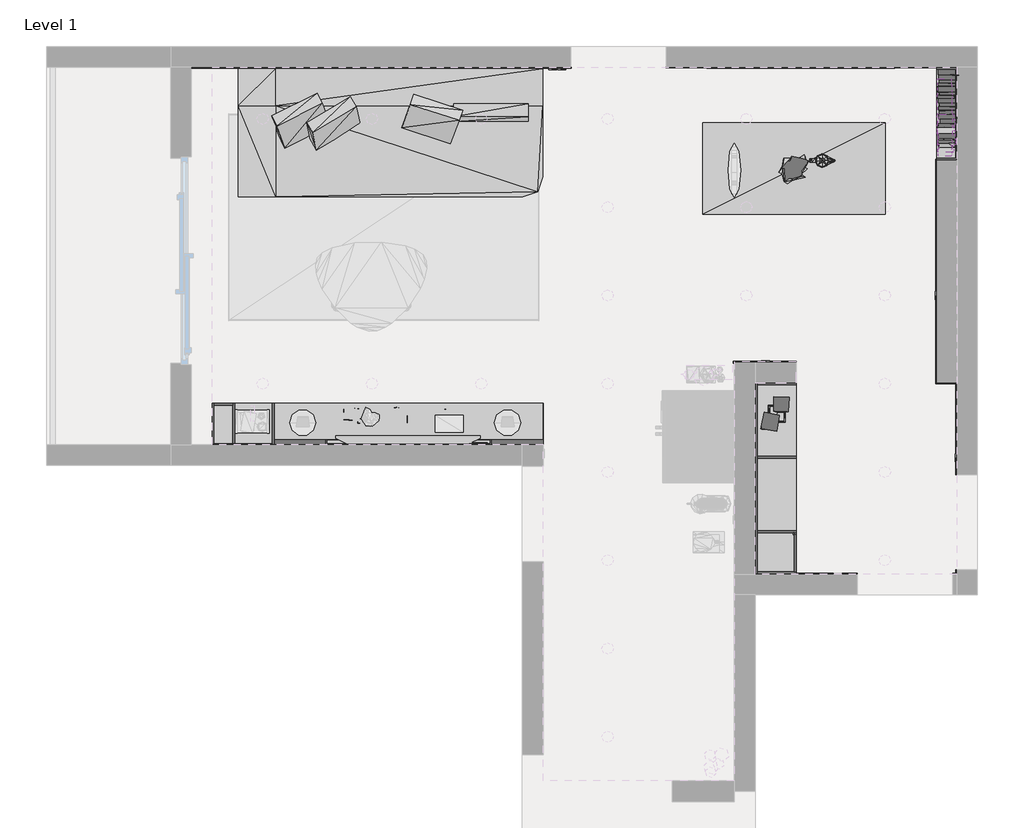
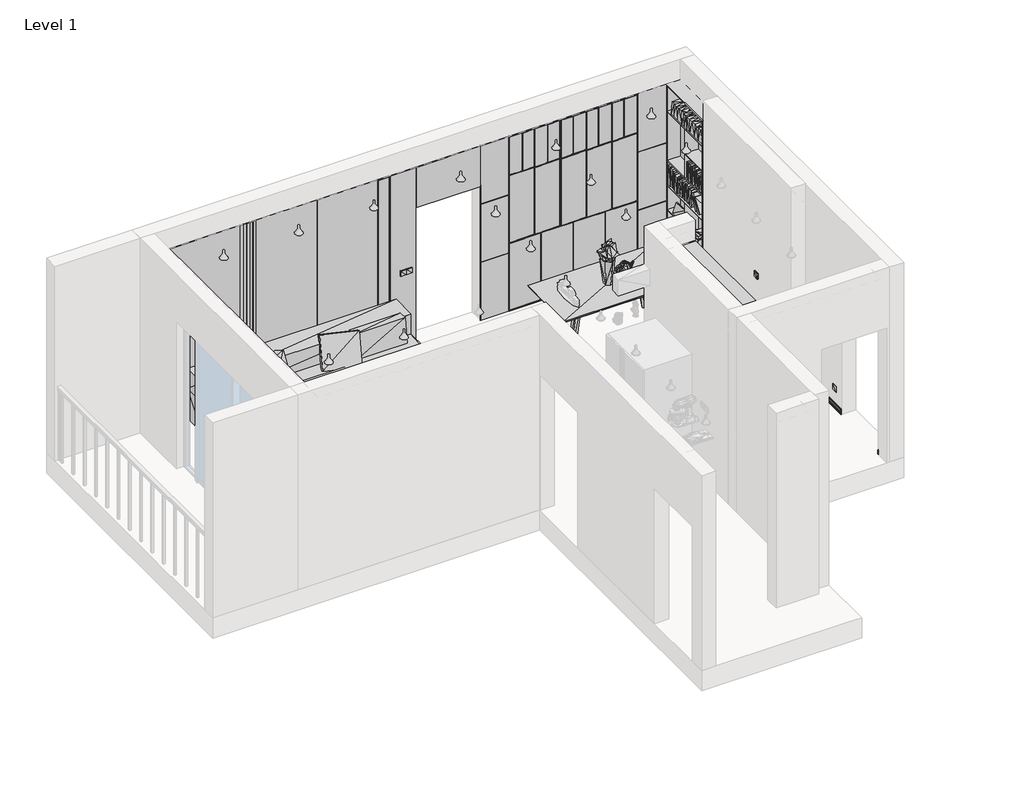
# One storey, part 3 of 3: 19 geographic elements, 2 proxies.
"""IFC4 building model written with IfcOpenShell, lengths in millimetres."""

from ifc_helpers import new_model, si_unit, frame, origin, place, context, project, spatial, polyline, circle_curve, ellipse_curve, transform, mapped, element, save
from ifc_brep_helpers import plane_surface, revolved_surface, advanced_brep
from components import living_room_living_room_9fcb9abf, living_room_living_room_f82f030e, geographic_element_3b733e86, geographic_element_d1b7c6a5, geographic_element_edd7479c, enscape_assetdefinition_books_02_enscape_assetdefinition_e079a25d, enscape_assetdefinition_books_03_enscape_assetdefinition_3bd942de, enscape_assetdefinition_books_11_enscape_assetdefinition_afcb8159, enscape_assetdefinition_dining_table_04_enscape_079112b5, enscape_assetdefinition_interior_plant_35_enscape_2c715937, enscape_assetdefinition_light_switch_02_enscape_37d4c2cf, enscape_assetdefinition_photo_frame_02_enscape_bd3f4fb1, enscape_assetdefinition_picture_frame_portrait_enscape_684294eb, enscape_assetdefinition_power_socket_enscape_assetdefinition_57b8c8f3, enscape_assetdefinition_sofa_04_enscape_assetdefinition_sofa_917a1df8

model = new_model("IFC4")

# Units and contexts
model_context = context("Model", 3, world=origin())
ifc_project = project(units=[si_unit("LENGTHUNIT", "METRE", prefix="MILLI")], contexts=[model_context])

# Site, building, storey
site = spatial("IfcSite", under=ifc_project)
building = spatial("IfcBuilding", under=site)
storey = spatial("IfcBuildingStorey", under=building, Name="Level 1", Elevation=0.0)

# Proxies
placement = place(None, origin())
element("IfcBuildingElementProxy", 1, Name="Cornice", ObjectType="Cornice", at=placement, inside=storey, context=model_context, shape_type="AdvancedBrep", body=[
    advanced_brep(
    [(1751.6989013, -51.4616585, 0.0), (1751.6989013, -51.4616585, 80.0), (1751.6989013, -2202.1687653, 80.0), (1751.6989013, -2202.1687653, 0.0), (1741.6989013, -41.4616585, 0.0), (1741.6989013, -2212.1687653, 0.0), (1741.6989013, -41.4616585, 9.3765106), (1741.6989013, -2212.1687653, 9.3765106), (1741.6989013, -41.4616585, 15.3628199), (1741.6989013, -2212.1687653, 15.3628199), (1741.6989013, -41.4616585, 26.8765106), (1741.6989013, -2212.1687653, 26.8765106), (1741.6989013, -41.4616585, 32.8628199), (1741.6989013, -2212.1687653, 32.8628199), (1741.6989013, -41.4616585, 45.0015106), (1741.6989013, -2212.1687653, 45.0015106), (1741.6989013, -41.4616585, 50.9878199), (1741.6989013, -2212.1687653, 50.9878199), (1741.6989013, -41.4616585, 61.339746), (1741.6989013, -2212.1687653, 61.339746), (1746.6989013, -46.4616585, 80.0), (1746.6989013, -2207.1687653, 80.0), (1946.6989013, -2202.1687653, 80.0), (1946.6989013, -2207.1687653, 80.0), (1946.6989013, -2212.1687653, 61.339746), (1946.6989013, -2212.1687653, 50.9878199), (1946.6989013, -2212.1687653, 45.0015106), (1946.6989013, -2212.1687653, 32.8628199), (1946.6989013, -2212.1687653, 26.8765106), (1946.6989013, -2212.1687653, 15.3628199), (1946.6989013, -2212.1687653, 9.3765106), (1946.6989013, -2212.1687653, 0.0), (1946.6989013, -2202.1687653, 0.0), (1751.6989013, -41.4616585, 0.0), (1751.6989013, -41.4616585, 9.3765106), (1751.6989013, -41.4616585, 15.3628199), (1751.6989013, -41.4616585, 26.8765106), (1751.6989013, -41.4616585, 32.8628199), (1751.6989013, -41.4616585, 45.0015106), (1751.6989013, -41.4616585, 50.9878199), (1751.6989013, -41.4616585, 61.339746), (1751.6989013, -46.4616585, 80.0)],
    [
        (0, 1),
        (1, 2),
        (2, 3),
        (3, 0),
        (4, 0),
        (3, 5),
        (5, 4),
        (6, 4),
        (5, 7),
        (7, 6),
        (8, 6, ellipse_curve(frame((1741.6989013, -41.4616585, 12.3696652), z_axis=(0.707106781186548, 0.7071067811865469, 0.0), x_axis=(0.7071067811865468, -0.7071067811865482, 0.0)), 4.2329599, 2.9931546)),
        (7, 9, ellipse_curve(frame((1741.6989013, -2212.1687653, 12.3696652), z_axis=(0.707106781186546, -0.707106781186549, 0.0), x_axis=(-0.707106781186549, -0.707106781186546, 0.0)), 4.2329599, 2.9931546)),
        (9, 8),
        (10, 8),
        (9, 11),
        (11, 10),
        (12, 10, ellipse_curve(frame((1741.6989013, -41.4616585, 29.8696652), z_axis=(0.707106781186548, 0.7071067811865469, 0.0), x_axis=(0.7071067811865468, -0.7071067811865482, 0.0)), 4.2329599, 2.9931546)),
        (11, 13, ellipse_curve(frame((1741.6989013, -2212.1687653, 29.8696652), z_axis=(0.707106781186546, -0.707106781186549, 0.0), x_axis=(-0.707106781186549, -0.707106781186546, 0.0)), 4.2329599, 2.9931546)),
        (13, 12),
        (14, 12),
        (13, 15),
        (15, 14),
        (16, 14, ellipse_curve(frame((1741.6989013, -41.4616585, 47.9946652), z_axis=(0.707106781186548, 0.7071067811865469, 0.0), x_axis=(0.7071067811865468, -0.7071067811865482, 0.0)), 4.2329599, 2.9931546)),
        (15, 17, ellipse_curve(frame((1741.6989013, -2212.1687653, 47.9946652), z_axis=(0.707106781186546, -0.707106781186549, 0.0), x_axis=(-0.707106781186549, -0.707106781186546, 0.0)), 4.2329599, 2.9931546)),
        (17, 16),
        (18, 16),
        (17, 19),
        (19, 18),
        (20, 18),
        (19, 21),
        (21, 20),
        (1, 20),
        (21, 2),
        (22, 23),
        (23, 24),
        (24, 25),
        (25, 26, circle_curve(frame((1946.6989013, -2212.1687653, 47.9946652), z_axis=(-1.0, 0.0, 0.0), x_axis=(0.0, -1.0, 0.0)), 2.9931546)),
        (26, 27),
        (27, 28, circle_curve(frame((1946.6989013, -2212.1687653, 29.8696652), z_axis=(-1.0, 0.0, 0.0), x_axis=(0.0, -1.0, 0.0)), 2.9931546)),
        (28, 29),
        (29, 30, circle_curve(frame((1946.6989013, -2212.1687653, 12.3696652), z_axis=(-1.0, 0.0, 0.0), x_axis=(0.0, -1.0, 0.0)), 2.9931546)),
        (30, 31),
        (31, 32),
        (32, 22),
        (2, 22),
        (32, 3),
        (31, 5),
        (30, 7),
        (29, 9),
        (28, 11),
        (27, 13),
        (26, 15),
        (25, 17),
        (24, 19),
        (23, 21),
        (0, 33),
        (33, 34),
        (34, 35, circle_curve(frame((1751.6989013, -41.4616585, 12.3696652), z_axis=(-1.0, 0.0, 0.0), x_axis=(0.0, 1.0, 0.0)), 2.9931546)),
        (35, 36),
        (36, 37, circle_curve(frame((1751.6989013, -41.4616585, 29.8696652), z_axis=(-1.0, 0.0, 0.0), x_axis=(0.0, 1.0, 0.0)), 2.9931546)),
        (37, 38),
        (38, 39, circle_curve(frame((1751.6989013, -41.4616585, 47.9946652), z_axis=(-1.0, 0.0, 0.0), x_axis=(0.0, 1.0, 0.0)), 2.9931546)),
        (39, 40),
        (40, 41),
        (41, 1),
        (4, 33),
        (6, 34),
        (8, 35),
        (10, 36),
        (12, 37),
        (14, 38),
        (16, 39),
        (18, 40),
        (20, 41),
    ],
    [
        plane_surface(frame((1751.6989013, -51.4616585, 80.0), z_axis=(1.0, 0.0, 0.0), x_axis=(0.0, -1.0, 0.0))),
        plane_surface(frame((1751.6989013, -51.4616585, 0.0), z_axis=(0.0, 0.0, -1.0), x_axis=(0.0, -1.0, 0.0))),
        plane_surface(frame((1741.6989013, -41.4616585, 0.0), z_axis=(-1.0, 0.0, 0.0), x_axis=(0.0, -1.0, 0.0))),
        revolved_surface(polyline([(1738.7057467, -2215.1619199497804, 12.3696652), (1738.7057467, -38.468503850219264, 12.3696652)]), (1741.6989013, -51.4616585, 12.3696652), (0.0, -1.0, 0.0)),
        plane_surface(frame((1741.6989013, -41.4616585, 15.3628199), z_axis=(-1.0, 0.0, 0.0), x_axis=(0.0, -1.0, 0.0))),
        revolved_surface(polyline([(1738.7057467, -2215.1619199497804, 29.8696652), (1738.7057467, -38.468503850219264, 29.8696652)]), (1741.6989013, -51.4616585, 29.8696652), (0.0, -1.0, 0.0)),
        plane_surface(frame((1741.6989013, -41.4616585, 32.8628199), z_axis=(-1.0, 0.0, 0.0), x_axis=(0.0, -1.0, 0.0))),
        revolved_surface(polyline([(1738.7057467, -2215.1619199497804, 47.9946652), (1738.7057467, -38.468503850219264, 47.9946652)]), (1741.6989013, -51.4616585, 47.9946652), (0.0, -1.0, 0.0)),
        plane_surface(frame((1741.6989013, -41.4616585, 50.9878199), z_axis=(-1.0, 0.0, 0.0), x_axis=(0.0, -1.0, 0.0))),
        plane_surface(frame((1741.6989013, -41.4616585, 61.339746), z_axis=(-0.9659258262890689, 0.0, 0.2588190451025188), x_axis=(0.0, -1.0, 0.0))),
        plane_surface(frame((1746.6989013, -46.4616585, 80.0), z_axis=(0.0, 0.0, 1.0), x_axis=(0.0, -1.0, 0.0))),
        plane_surface(frame((1946.6989013, -51.4616585, 0.0), z_axis=(1.0, 0.0, 0.0), x_axis=(0.0, -1.0, 0.0))),
        plane_surface(frame((1751.6989013, -2202.1687653, 80.0), z_axis=(0.0, 1.0, 0.0), x_axis=(1.0, 0.0, 0.0))),
        plane_surface(frame((1751.6989013, -2202.1687653, 0.0), z_axis=(0.0, 0.0, -1.0), x_axis=(1.0, 0.0, 0.0))),
        plane_surface(frame((1741.6989013, -2212.1687653, 0.0), z_axis=(0.0, -1.0, 0.0), x_axis=(1.0, 0.0, 0.0))),
        revolved_surface(polyline([(1946.6989013, -2215.1619198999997, 12.3696652), (1738.7057466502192, -2215.1619198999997, 12.3696652)]), (1751.6989013, -2212.1687653, 12.3696652), (1.0, 0.0, 0.0)),
        plane_surface(frame((1741.6989013, -2212.1687653, 15.3628199), z_axis=(0.0, -1.0, 0.0), x_axis=(1.0, 0.0, 0.0))),
        revolved_surface(polyline([(1946.6989013, -2215.1619198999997, 29.8696652), (1738.7057466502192, -2215.1619198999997, 29.8696652)]), (1751.6989013, -2212.1687653, 29.8696652), (1.0, 0.0, 0.0)),
        plane_surface(frame((1741.6989013, -2212.1687653, 32.8628199), z_axis=(0.0, -1.0, 0.0), x_axis=(1.0, 0.0, 0.0))),
        revolved_surface(polyline([(1946.6989013, -2215.1619198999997, 47.9946652), (1738.7057466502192, -2215.1619198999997, 47.9946652)]), (1751.6989013, -2212.1687653, 47.9946652), (1.0, 0.0, 0.0)),
        plane_surface(frame((1741.6989013, -2212.1687653, 50.9878199), z_axis=(0.0, -1.0, 0.0), x_axis=(1.0, 0.0, 0.0))),
        plane_surface(frame((1741.6989013, -2212.1687653, 61.339746), z_axis=(0.0, -0.9659258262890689, 0.2588190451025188), x_axis=(1.0, 0.0, 0.0))),
        plane_surface(frame((1746.6989013, -2207.1687653, 80.0), z_axis=(0.0, 0.0, 1.0), x_axis=(1.0, 0.0, 0.0))),
        plane_surface(frame((1751.6989013, -51.4616585, 0.0), z_axis=(1.0, 0.0, 0.0), x_axis=(0.0, -1.0, 0.0))),
        plane_surface(frame((1751.6989013, -51.4616585, 0.0), z_axis=(0.0, 0.0, -1.0), x_axis=(-1.0, 0.0, 0.0))),
        plane_surface(frame((1751.6989013, -41.4616585, 0.0), z_axis=(0.0, 1.0, 0.0), x_axis=(-1.0, 0.0, 0.0))),
        revolved_surface(polyline([(1738.7057466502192, -38.4685039, 12.3696652), (1751.6989013, -38.4685039, 12.3696652)]), (1751.6989013, -41.4616585, 12.3696652), (-1.0, 0.0, 0.0)),
        plane_surface(frame((1751.6989013, -41.4616585, 15.3628199), z_axis=(0.0, 1.0, 0.0), x_axis=(-1.0, 0.0, 0.0))),
        revolved_surface(polyline([(1738.7057466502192, -38.4685039, 29.8696652), (1751.6989013, -38.4685039, 29.8696652)]), (1751.6989013, -41.4616585, 29.8696652), (-1.0, 0.0, 0.0)),
        plane_surface(frame((1751.6989013, -41.4616585, 32.8628199), z_axis=(0.0, 1.0, 0.0), x_axis=(-1.0, 0.0, 0.0))),
        revolved_surface(polyline([(1738.7057466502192, -38.4685039, 47.9946652), (1751.6989013, -38.4685039, 47.9946652)]), (1751.6989013, -41.4616585, 47.9946652), (-1.0, 0.0, 0.0)),
        plane_surface(frame((1751.6989013, -41.4616585, 50.9878199), z_axis=(0.0, 1.0, 0.0), x_axis=(-1.0, 0.0, 0.0))),
        plane_surface(frame((1751.6989013, -41.4616585, 61.339746), z_axis=(0.0, 0.9659258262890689, 0.25881904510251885), x_axis=(-1.0, 0.0, 0.0))),
        plane_surface(frame((1751.6989013, -46.4616585, 80.0), z_axis=(0.0, 0.0, 1.0), x_axis=(-1.0, 0.0, 0.0))),
    ],
    [
        (0, [[1, 2, 3, 4]]),
        (1, [[5, -4, 6, 7]]),
        (2, [[8, -7, 9, 10]]),
        (3, [[11, -10, 12, 13]]),
        (4, [[14, -13, 15, 16]]),
        (5, [[17, -16, 18, 19]]),
        (6, [[20, -19, 21, 22]]),
        (7, [[23, -22, 24, 25]]),
        (8, [[26, -25, 27, 28]]),
        (9, [[29, -28, 30, 31]]),
        (10, [[32, -31, 33, -2]]),
        (11, [[34, 35, 36, 37, 38, 39, 40, 41, 42, 43, 44]]),
        (12, [[-3, 45, -44, 46]]),
        (13, [[-6, -46, -43, 47]]),
        (14, [[-9, -47, -42, 48]]),
        (15, [[-12, -48, -41, 49]]),
        (16, [[-15, -49, -40, 50]]),
        (17, [[-18, -50, -39, 51]]),
        (18, [[-21, -51, -38, 52]]),
        (19, [[-24, -52, -37, 53]]),
        (20, [[-27, -53, -36, 54]]),
        (21, [[-30, -54, -35, 55]]),
        (22, [[-33, -55, -34, -45]]),
        (23, [[56, 57, 58, 59, 60, 61, 62, 63, 64, 65, -1]]),
        (24, [[-56, -5, 66]]),
        (25, [[-57, -66, -8, 67]]),
        (26, [[-58, -67, -11, 68]]),
        (27, [[-59, -68, -14, 69]]),
        (28, [[-60, -69, -17, 70]]),
        (29, [[-61, -70, -20, 71]]),
        (30, [[-62, -71, -23, 72]]),
        (31, [[-63, -72, -26, 73]]),
        (32, [[-64, -73, -29, 74]]),
        (33, [[-65, -74, -32]]),
    ],
),
    advanced_brep(
    [(1946.6989013, -4012.1687653, 80.0), (1946.6989013, -4012.1687653, 0.0), (1936.6989013, -4012.1687653, 0.0), (1936.6989013, -4012.1687653, 9.3765106), (1936.6989013, -4012.1687653, 15.3628199), (1936.6989013, -4012.1687653, 26.8765106), (1936.6989013, -4012.1687653, 32.8628199), (1936.6989013, -4012.1687653, 45.0015106), (1936.6989013, -4012.1687653, 50.9878199), (1936.6989013, -4012.1687653, 61.339746), (1941.6989013, -4012.1687653, 80.0), (1946.6989013, -4052.1687653, 80.0), (1941.6989013, -4047.1687653, 80.0), (1936.6989013, -4042.1687653, 61.339746), (1936.6989013, -4042.1687653, 50.9878199), (1936.6989013, -4042.1687653, 45.0015106), (1936.6989013, -4042.1687653, 32.8628199), (1936.6989013, -4042.1687653, 26.8765106), (1936.6989013, -4042.1687653, 15.3628199), (1936.6989013, -4042.1687653, 9.3765106), (1936.6989013, -4042.1687653, 0.0), (1946.6989013, -4052.1687653, 0.0)],
    [
        (0, 1),
        (1, 2),
        (2, 3),
        (3, 4, circle_curve(frame((1936.6989013, -4012.1687653, 12.3696652), z_axis=(0.0, -1.0, 0.0), x_axis=(-1.0, 0.0, 0.0)), 2.9931546)),
        (4, 5),
        (5, 6, circle_curve(frame((1936.6989013, -4012.1687653, 29.8696652), z_axis=(0.0, -1.0, 0.0), x_axis=(-1.0, 0.0, 0.0)), 2.9931546)),
        (6, 7),
        (7, 8, circle_curve(frame((1936.6989013, -4012.1687653, 47.9946652), z_axis=(0.0, -1.0, 0.0), x_axis=(-1.0, 0.0, 0.0)), 2.9931546)),
        (8, 9),
        (9, 10),
        (10, 0),
        (11, 12),
        (12, 13),
        (13, 14),
        (14, 15, ellipse_curve(frame((1936.6989013, -4042.1687653, 47.9946652), z_axis=(0.7071067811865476, 0.7071067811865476, 0.0), x_axis=(0.7071067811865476, -0.7071067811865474, 0.0)), 4.2329599, 2.9931546)),
        (15, 16),
        (16, 17, ellipse_curve(frame((1936.6989013, -4042.1687653, 29.8696652), z_axis=(0.7071067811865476, 0.7071067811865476, 0.0), x_axis=(0.7071067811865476, -0.7071067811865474, 0.0)), 4.2329599, 2.9931546)),
        (17, 18),
        (18, 19, ellipse_curve(frame((1936.6989013, -4042.1687653, 12.3696652), z_axis=(0.7071067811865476, 0.7071067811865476, 0.0), x_axis=(0.7071067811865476, -0.7071067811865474, 0.0)), 4.2329599, 2.9931546)),
        (19, 20),
        (20, 21),
        (21, 11),
        (0, 11),
        (21, 1),
        (20, 2),
        (19, 3),
        (18, 4),
        (17, 5),
        (16, 6),
        (15, 7),
        (14, 8),
        (13, 9),
        (12, 10),
    ],
    [
        plane_surface(frame((1866.5428036, -4012.1687653, 0.0), z_axis=(0.0, 1.0, 0.0), x_axis=(0.0, 0.0, -1.0))),
        plane_surface(frame((1946.6989013, -4052.1687653, 304.8), z_axis=(-0.7071067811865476, -0.7071067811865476, 0.0), x_axis=(-0.7071067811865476, 0.7071067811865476, 0.0))),
        plane_surface(frame((1946.6989013, -4012.1687653, 80.0), z_axis=(1.0, 0.0, 0.0), x_axis=(0.0, -1.0, 0.0))),
        plane_surface(frame((1946.6989013, -4012.1687653, 0.0), z_axis=(0.0, 0.0, -1.0), x_axis=(0.0, -1.0, 0.0))),
        plane_surface(frame((1936.6989013, -4012.1687653, 0.0), z_axis=(-1.0, 0.0, 0.0), x_axis=(0.0, -1.0, 0.0))),
        revolved_surface(polyline([(1933.7057467, -4045.1619199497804, 12.3696652), (1933.7057467, -4012.1687653, 12.3696652)]), (1936.6989013, -4012.1687653, 12.3696652), (0.0, -1.0, 0.0)),
        plane_surface(frame((1936.6989013, -4012.1687653, 15.3628199), z_axis=(-1.0, 0.0, 0.0), x_axis=(0.0, -1.0, 0.0))),
        revolved_surface(polyline([(1933.7057467, -4045.1619199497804, 29.8696652), (1933.7057467, -4012.1687653, 29.8696652)]), (1936.6989013, -4012.1687653, 29.8696652), (0.0, -1.0, 0.0)),
        plane_surface(frame((1936.6989013, -4012.1687653, 32.8628199), z_axis=(-1.0, 0.0, 0.0), x_axis=(0.0, -1.0, 0.0))),
        revolved_surface(polyline([(1933.7057467, -4045.1619199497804, 47.9946652), (1933.7057467, -4012.1687653, 47.9946652)]), (1936.6989013, -4012.1687653, 47.9946652), (0.0, -1.0, 0.0)),
        plane_surface(frame((1936.6989013, -4012.1687653, 50.9878199), z_axis=(-1.0, 0.0, 0.0), x_axis=(0.0, -1.0, 0.0))),
        plane_surface(frame((1936.6989013, -4012.1687653, 61.339746), z_axis=(-0.9659258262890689, 0.0, 0.2588190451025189), x_axis=(0.0, -1.0, 0.0))),
        plane_surface(frame((1941.6989013, -4012.1687653, 80.0), z_axis=(0.0, 0.0, 1.0), x_axis=(0.0, -1.0, 0.0))),
    ],
    [
        (0, [[1, 2, 3, 4, 5, 6, 7, 8, 9, 10, 11]]),
        (1, [[12, 13, 14, 15, 16, 17, 18, 19, 20, 21, 22]]),
        (2, [[-1, 23, -22, 24]]),
        (3, [[-2, -24, -21, 25]]),
        (4, [[-3, -25, -20, 26]]),
        (5, [[-4, -26, -19, 27]]),
        (6, [[-5, -27, -18, 28]]),
        (7, [[-6, -28, -17, 29]]),
        (8, [[-7, -29, -16, 30]]),
        (9, [[-8, -30, -15, 31]]),
        (10, [[-9, -31, -14, 32]]),
        (11, [[-10, -32, -13, 33]]),
        (12, [[-11, -33, -12, -23]]),
    ],
),
    advanced_brep(
    [(1946.6989013, -2158.0522928, 80.0), (1946.6989013, -2158.0522928, 0.0), (1936.6989013, -2158.0522928, 0.0), (1936.6989013, -2158.0522928, 9.3765106), (1936.6989013, -2158.0522928, 15.3628199), (1936.6989013, -2158.0522928, 26.8765106), (1936.6989013, -2158.0522928, 32.8628199), (1936.6989013, -2158.0522928, 45.0015106), (1936.6989013, -2158.0522928, 50.9878199), (1936.6989013, -2158.0522928, 61.339746), (1941.6989013, -2158.0522928, 80.0), (1946.6989013, -3090.1687653, 80.0), (1941.6989013, -3090.1687653, 80.0), (1936.6989013, -3090.1687653, 61.339746), (1936.6989013, -3090.1687653, 50.9878199), (1936.6989013, -3090.1687653, 45.0015106), (1936.6989013, -3090.1687653, 32.8628199), (1936.6989013, -3090.1687653, 26.8765106), (1936.6989013, -3090.1687653, 15.3628199), (1936.6989013, -3090.1687653, 9.3765106), (1936.6989013, -3090.1687653, 0.0), (1946.6989013, -3090.1687653, 0.0)],
    [
        (0, 1),
        (1, 2),
        (2, 3),
        (3, 4, circle_curve(frame((1936.6989013, -2158.0522928, 12.3696652), z_axis=(0.0, -1.0, 0.0), x_axis=(-1.0, 0.0, 0.0)), 2.9931546)),
        (4, 5),
        (5, 6, circle_curve(frame((1936.6989013, -2158.0522928, 29.8696652), z_axis=(0.0, -1.0, 0.0), x_axis=(-1.0, 0.0, 0.0)), 2.9931546)),
        (6, 7),
        (7, 8, circle_curve(frame((1936.6989013, -2158.0522928, 47.9946652), z_axis=(0.0, -1.0, 0.0), x_axis=(-1.0, 0.0, 0.0)), 2.9931546)),
        (8, 9),
        (9, 10),
        (10, 0),
        (11, 12),
        (12, 13),
        (13, 14),
        (14, 15, circle_curve(frame((1936.6989013, -3090.1687653, 47.9946652), z_axis=(0.0, 1.0, 0.0), x_axis=(-1.0, 0.0, 0.0)), 2.9931546)),
        (15, 16),
        (16, 17, circle_curve(frame((1936.6989013, -3090.1687653, 29.8696652), z_axis=(0.0, 1.0, 0.0), x_axis=(-1.0, 0.0, 0.0)), 2.9931546)),
        (17, 18),
        (18, 19, circle_curve(frame((1936.6989013, -3090.1687653, 12.3696652), z_axis=(0.0, 1.0, 0.0), x_axis=(-1.0, 0.0, 0.0)), 2.9931546)),
        (19, 20),
        (20, 21),
        (21, 11),
        (0, 11),
        (21, 1),
        (20, 2),
        (19, 3),
        (18, 4),
        (17, 5),
        (16, 6),
        (15, 7),
        (14, 8),
        (13, 9),
        (12, 10),
    ],
    [
        plane_surface(frame((1866.5428036, -2158.0522928, 0.0), z_axis=(0.0, 1.0, 0.0), x_axis=(0.0, 0.0, -1.0))),
        plane_surface(frame((1866.5428036, -3090.1687653, 0.0), z_axis=(0.0, -1.0, 0.0), x_axis=(0.0, 0.0, -1.0))),
        plane_surface(frame((1946.6989013, -2158.0522928, 80.0), z_axis=(1.0, 0.0, 0.0), x_axis=(0.0, -1.0, 0.0))),
        plane_surface(frame((1946.6989013, -2158.0522928, 0.0), z_axis=(0.0, 0.0, -1.0), x_axis=(0.0, -1.0, 0.0))),
        plane_surface(frame((1936.6989013, -2158.0522928, 0.0), z_axis=(-1.0, 0.0, 0.0), x_axis=(0.0, -1.0, 0.0))),
        revolved_surface(polyline([(1933.7057467, -3090.1687653, 12.3696652), (1933.7057467, -2158.0522928, 12.3696652)]), (1936.6989013, -2158.0522928, 12.3696652), (0.0, -1.0, 0.0)),
        plane_surface(frame((1936.6989013, -2158.0522928, 15.3628199), z_axis=(-1.0, 0.0, 0.0), x_axis=(0.0, -1.0, 0.0))),
        revolved_surface(polyline([(1933.7057467, -3090.1687653, 29.8696652), (1933.7057467, -2158.0522928, 29.8696652)]), (1936.6989013, -2158.0522928, 29.8696652), (0.0, -1.0, 0.0)),
        plane_surface(frame((1936.6989013, -2158.0522928, 32.8628199), z_axis=(-1.0, 0.0, 0.0), x_axis=(0.0, -1.0, 0.0))),
        revolved_surface(polyline([(1933.7057467, -3090.1687653, 47.9946652), (1933.7057467, -2158.0522928, 47.9946652)]), (1936.6989013, -2158.0522928, 47.9946652), (0.0, -1.0, 0.0)),
        plane_surface(frame((1936.6989013, -2158.0522928, 50.9878199), z_axis=(-1.0, 0.0, 0.0), x_axis=(0.0, -1.0, 0.0))),
        plane_surface(frame((1936.6989013, -2158.0522928, 61.339746), z_axis=(-0.9659258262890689, 0.0, 0.2588190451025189), x_axis=(0.0, -1.0, 0.0))),
        plane_surface(frame((1941.6989013, -2158.0522928, 80.0), z_axis=(0.0, 0.0, 1.0), x_axis=(0.0, -1.0, 0.0))),
    ],
    [
        (0, [[1, 2, 3, 4, 5, 6, 7, 8, 9, 10, 11]]),
        (1, [[12, 13, 14, 15, 16, 17, 18, 19, 20, 21, 22]]),
        (2, [[-1, 23, -22, 24]]),
        (3, [[-2, -24, -21, 25]]),
        (4, [[-3, -25, -20, 26]]),
        (5, [[-4, -26, -19, 27]]),
        (6, [[-5, -27, -18, 28]]),
        (7, [[-6, -28, -17, 29]]),
        (8, [[-7, -29, -16, 30]]),
        (9, [[-8, -30, -15, 31]]),
        (10, [[-9, -31, -14, 32]]),
        (11, [[-10, -32, -13, 33]]),
        (12, [[-11, -33, -12, -23]]),
    ],
),
    advanced_brep(
    [(984.6989013, -4052.1687653, 80.0), (984.6989013, -4052.1687653, 0.0), (984.6989013, -4042.1687653, 0.0), (984.6989013, -4042.1687653, 9.3765106), (984.6989013, -4042.1687653, 15.3628199), (984.6989013, -4042.1687653, 26.8765106), (984.6989013, -4042.1687653, 32.8628199), (984.6989013, -4042.1687653, 45.0015106), (984.6989013, -4042.1687653, 50.9878199), (984.6989013, -4042.1687653, 61.339746), (984.6989013, -4047.1687653, 80.0), (-3.3010987, -4052.1687653, 80.0), (-3.3010987, -4047.1687653, 80.0), (-3.3010987, -4042.1687653, 61.339746), (-3.3010987, -4042.1687653, 50.9878199), (-3.3010987, -4042.1687653, 45.0015106), (-3.3010987, -4042.1687653, 32.8628199), (-3.3010987, -4042.1687653, 26.8765106), (-3.3010987, -4042.1687653, 15.3628199), (-3.3010987, -4042.1687653, 9.3765106), (-3.3010987, -4042.1687653, 0.0), (-3.3010987, -4052.1687653, 0.0)],
    [
        (0, 1),
        (1, 2),
        (2, 3),
        (3, 4, circle_curve(frame((984.6989013, -4042.1687653, 12.3696652), z_axis=(-1.0, 0.0, 0.0), x_axis=(0.0, 1.0, 0.0)), 2.9931546)),
        (4, 5),
        (5, 6, circle_curve(frame((984.6989013, -4042.1687653, 29.8696652), z_axis=(-1.0, 0.0, 0.0), x_axis=(0.0, 1.0, 0.0)), 2.9931546)),
        (6, 7),
        (7, 8, circle_curve(frame((984.6989013, -4042.1687653, 47.9946652), z_axis=(-1.0, 0.0, 0.0), x_axis=(0.0, 1.0, 0.0)), 2.9931546)),
        (8, 9),
        (9, 10),
        (10, 0),
        (11, 12),
        (12, 13),
        (13, 14),
        (14, 15, circle_curve(frame((-3.3010987, -4042.1687653, 47.9946652), z_axis=(1.0, 0.0, 0.0), x_axis=(0.0, 1.0, 0.0)), 2.9931546)),
        (15, 16),
        (16, 17, circle_curve(frame((-3.3010987, -4042.1687653, 29.8696652), z_axis=(1.0, 0.0, 0.0), x_axis=(0.0, 1.0, 0.0)), 2.9931546)),
        (17, 18),
        (18, 19, circle_curve(frame((-3.3010987, -4042.1687653, 12.3696652), z_axis=(1.0, 0.0, 0.0), x_axis=(0.0, 1.0, 0.0)), 2.9931546)),
        (19, 20),
        (20, 21),
        (21, 11),
        (0, 11),
        (21, 1),
        (20, 2),
        (19, 3),
        (18, 4),
        (17, 5),
        (16, 6),
        (15, 7),
        (14, 8),
        (13, 9),
        (12, 10),
    ],
    [
        plane_surface(frame((984.6989013, -4052.1687653, -80.1560977), z_axis=(1.0, 0.0, 0.0), x_axis=(0.0, -1.0, 0.0))),
        plane_surface(frame((-3.3010987, -4052.1687653, -80.1560977), z_axis=(-1.0, 0.0, 0.0), x_axis=(0.0, -1.0, 0.0))),
        plane_surface(frame((984.6989013, -4052.1687653, 80.0), z_axis=(0.0, -1.0, 0.0), x_axis=(-1.0, 0.0, 0.0))),
        plane_surface(frame((984.6989013, -4052.1687653, 0.0), z_axis=(0.0, 0.0, -1.0), x_axis=(-1.0, 0.0, 0.0))),
        plane_surface(frame((984.6989013, -4042.1687653, 0.0), z_axis=(0.0, 1.0, 0.0), x_axis=(-1.0, 0.0, 0.0))),
        revolved_surface(polyline([(-3.3010987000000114, -4039.1756107, 12.3696652), (984.6989013, -4039.1756107, 12.3696652)]), (984.6989013, -4042.1687653, 12.3696652), (-1.0, 0.0, 0.0)),
        plane_surface(frame((984.6989013, -4042.1687653, 15.3628199), z_axis=(0.0, 1.0, 0.0), x_axis=(-1.0, 0.0, 0.0))),
        revolved_surface(polyline([(-3.3010987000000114, -4039.1756107, 29.8696652), (984.6989013, -4039.1756107, 29.8696652)]), (984.6989013, -4042.1687653, 29.8696652), (-1.0, 0.0, 0.0)),
        plane_surface(frame((984.6989013, -4042.1687653, 32.8628199), z_axis=(0.0, 1.0, 0.0), x_axis=(-1.0, 0.0, 0.0))),
        revolved_surface(polyline([(-3.3010987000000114, -4039.1756107, 47.9946652), (984.6989013, -4039.1756107, 47.9946652)]), (984.6989013, -4042.1687653, 47.9946652), (-1.0, 0.0, 0.0)),
        plane_surface(frame((984.6989013, -4042.1687653, 50.9878199), z_axis=(0.0, 1.0, 0.0), x_axis=(-1.0, 0.0, 0.0))),
        plane_surface(frame((984.6989013, -4042.1687653, 61.339746), z_axis=(0.0, 0.9659258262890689, 0.2588190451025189), x_axis=(-1.0, 0.0, 0.0))),
        plane_surface(frame((984.6989013, -4047.1687653, 80.0), z_axis=(0.0, 0.0, 1.0), x_axis=(-1.0, 0.0, 0.0))),
    ],
    [
        (0, [[1, 2, 3, 4, 5, 6, 7, 8, 9, 10, 11]]),
        (1, [[12, 13, 14, 15, 16, 17, 18, 19, 20, 21, 22]]),
        (2, [[-1, 23, -22, 24]]),
        (3, [[-2, -24, -21, 25]]),
        (4, [[-3, -25, -20, 26]]),
        (5, [[-4, -26, -19, 27]]),
        (6, [[-5, -27, -18, 28]]),
        (7, [[-6, -28, -17, 29]]),
        (8, [[-7, -29, -16, 30]]),
        (9, [[-8, -30, -15, 31]]),
        (10, [[-9, -31, -14, 32]]),
        (11, [[-10, -32, -13, 33]]),
        (12, [[-11, -33, -12, -23]]),
    ],
),
    advanced_brep(
    [(1946.6989013, -4052.1687653, 80.0), (1946.6989013, -4052.1687653, 0.0), (1936.6989013, -4042.1687653, 0.0), (1936.6989013, -4042.1687653, 9.3765106), (1936.6989013, -4042.1687653, 15.3628199), (1936.6989013, -4042.1687653, 26.8765106), (1936.6989013, -4042.1687653, 32.8628199), (1936.6989013, -4042.1687653, 45.0015106), (1936.6989013, -4042.1687653, 50.9878199), (1936.6989013, -4042.1687653, 61.339746), (1941.6989013, -4047.1687653, 80.0), (1906.6989013, -4052.1687653, 80.0), (1906.6989013, -4047.1687653, 80.0), (1906.6989013, -4042.1687653, 61.339746), (1906.6989013, -4042.1687653, 50.9878199), (1906.6989013, -4042.1687653, 45.0015106), (1906.6989013, -4042.1687653, 32.8628199), (1906.6989013, -4042.1687653, 26.8765106), (1906.6989013, -4042.1687653, 15.3628199), (1906.6989013, -4042.1687653, 9.3765106), (1906.6989013, -4042.1687653, 0.0), (1906.6989013, -4052.1687653, 0.0)],
    [
        (0, 1),
        (1, 2),
        (2, 3),
        (3, 4, ellipse_curve(frame((1936.6989013, -4042.1687653, 12.3696652), z_axis=(-0.7071067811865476, -0.7071067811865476, 0.0), x_axis=(-0.7071067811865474, 0.7071067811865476, 0.0)), 4.2329599, 2.9931546)),
        (4, 5),
        (5, 6, ellipse_curve(frame((1936.6989013, -4042.1687653, 29.8696652), z_axis=(-0.7071067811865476, -0.7071067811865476, 0.0), x_axis=(-0.7071067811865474, 0.7071067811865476, 0.0)), 4.2329599, 2.9931546)),
        (6, 7),
        (7, 8, ellipse_curve(frame((1936.6989013, -4042.1687653, 47.9946652), z_axis=(-0.7071067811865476, -0.7071067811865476, 0.0), x_axis=(-0.7071067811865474, 0.7071067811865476, 0.0)), 4.2329599, 2.9931546)),
        (8, 9),
        (9, 10),
        (10, 0),
        (11, 12),
        (12, 13),
        (13, 14),
        (14, 15, circle_curve(frame((1906.6989013, -4042.1687653, 47.9946652), z_axis=(1.0, 0.0, 0.0), x_axis=(0.0, 1.0, 0.0)), 2.9931546)),
        (15, 16),
        (16, 17, circle_curve(frame((1906.6989013, -4042.1687653, 29.8696652), z_axis=(1.0, 0.0, 0.0), x_axis=(0.0, 1.0, 0.0)), 2.9931546)),
        (17, 18),
        (18, 19, circle_curve(frame((1906.6989013, -4042.1687653, 12.3696652), z_axis=(1.0, 0.0, 0.0), x_axis=(0.0, 1.0, 0.0)), 2.9931546)),
        (19, 20),
        (20, 21),
        (21, 11),
        (0, 11),
        (21, 1),
        (20, 2),
        (19, 3),
        (18, 4),
        (17, 5),
        (16, 6),
        (15, 7),
        (14, 8),
        (13, 9),
        (12, 10),
    ],
    [
        plane_surface(frame((1946.6989013, -4052.1687653, 304.8), z_axis=(0.7071067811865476, 0.7071067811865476, 0.0), x_axis=(-0.7071067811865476, 0.7071067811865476, 0.0))),
        plane_surface(frame((1906.6989013, -4052.1687653, -80.1560977), z_axis=(-1.0, 0.0, 0.0), x_axis=(0.0, -1.0, 0.0))),
        plane_surface(frame((1946.6989013, -4052.1687653, 80.0), z_axis=(0.0, -1.0, 0.0), x_axis=(-1.0, 0.0, 0.0))),
        plane_surface(frame((1946.6989013, -4052.1687653, 0.0), z_axis=(0.0, 0.0, -1.0), x_axis=(-1.0, 0.0, 0.0))),
        plane_surface(frame((1936.6989013, -4042.1687653, 0.0), z_axis=(0.0, 1.0, 0.0), x_axis=(-1.0, 0.0, 0.0))),
        revolved_surface(polyline([(1906.6989013, -4039.1756107, 12.3696652), (1939.6920559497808, -4039.1756107, 12.3696652)]), (1946.6989013, -4042.1687653, 12.3696652), (-1.0, 0.0, 0.0)),
        plane_surface(frame((1936.6989013, -4042.1687653, 15.3628199), z_axis=(0.0, 1.0, 0.0), x_axis=(-1.0, 0.0, 0.0))),
        revolved_surface(polyline([(1906.6989013, -4039.1756107, 29.8696652), (1939.6920559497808, -4039.1756107, 29.8696652)]), (1946.6989013, -4042.1687653, 29.8696652), (-1.0, 0.0, 0.0)),
        plane_surface(frame((1936.6989013, -4042.1687653, 32.8628199), z_axis=(0.0, 1.0, 0.0), x_axis=(-1.0, 0.0, 0.0))),
        revolved_surface(polyline([(1906.6989013, -4039.1756107, 47.9946652), (1939.6920559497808, -4039.1756107, 47.9946652)]), (1946.6989013, -4042.1687653, 47.9946652), (-1.0, 0.0, 0.0)),
        plane_surface(frame((1936.6989013, -4042.1687653, 50.9878199), z_axis=(0.0, 1.0, 0.0), x_axis=(-1.0, 0.0, 0.0))),
        plane_surface(frame((1936.6989013, -4042.1687653, 61.339746), z_axis=(0.0, 0.9659258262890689, 0.2588190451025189), x_axis=(-1.0, 0.0, 0.0))),
        plane_surface(frame((1941.6989013, -4047.1687653, 80.0), z_axis=(0.0, 0.0, 1.0), x_axis=(-1.0, 0.0, 0.0))),
    ],
    [
        (0, [[1, 2, 3, 4, 5, 6, 7, 8, 9, 10, 11]]),
        (1, [[12, 13, 14, 15, 16, 17, 18, 19, 20, 21, 22]]),
        (2, [[-1, 23, -22, 24]]),
        (3, [[-2, -24, -21, 25]]),
        (4, [[-3, -25, -20, 26]]),
        (5, [[-4, -26, -19, 27]]),
        (6, [[-5, -27, -18, 28]]),
        (7, [[-6, -28, -17, 29]]),
        (8, [[-7, -29, -16, 30]]),
        (9, [[-8, -30, -15, 31]]),
        (10, [[-9, -31, -14, 32]]),
        (11, [[-10, -32, -13, 33]]),
        (12, [[-11, -33, -12, -23]]),
    ],
),
    advanced_brep(
    [(396.6989013, -2002.1687653, 80.0), (396.6989013, -2002.1687653, 0.0), (396.6989013, -1992.1687653, 0.0), (396.6989013, -1992.1687653, 9.3765106), (396.6989013, -1992.1687653, 15.3628199), (396.6989013, -1992.1687653, 26.8765106), (396.6989013, -1992.1687653, 32.8628199), (396.6989013, -1992.1687653, 45.0015106), (396.6989013, -1992.1687653, 50.9878199), (396.6989013, -1992.1687653, 61.339746), (396.6989013, -1997.1687653, 80.0), (-213.3010987, -1992.1687653, 50.9878199), (-213.3010987, -1992.1687653, 61.339746), (-213.3010987, -1992.1687653, 45.0015106), (-213.3010987, -1992.1687653, 32.8628199), (-213.3010987, -1992.1687653, 26.8765106), (-213.3010987, -1992.1687653, 15.3628199), (-213.3010987, -1992.1687653, 9.3765106), (-213.3010987, -1992.1687653, 0.0), (-203.3010987, -2002.1687653, 0.0), (-203.3010987, -2002.1687653, 80.0), (-203.3010987, -2012.1687653, 80.0), (-208.3010987, -2012.1687653, 80.0), (-213.3010987, -2012.1687653, 61.339746), (-213.3010987, -2012.1687653, 50.9878199), (-213.3010987, -2012.1687653, 45.0015106), (-213.3010987, -2012.1687653, 32.8628199), (-213.3010987, -2012.1687653, 26.8765106), (-213.3010987, -2012.1687653, 15.3628199), (-213.3010987, -2012.1687653, 9.3765106), (-213.3010987, -2012.1687653, 0.0), (-203.3010987, -2012.1687653, 0.0), (-208.3010987, -1997.1687653, 80.0)],
    [
        (0, 1),
        (1, 2),
        (2, 3),
        (3, 4, circle_curve(frame((396.6989013, -1992.1687653, 12.3696652), z_axis=(-1.0, 0.0, 0.0), x_axis=(0.0, 1.0, 0.0)), 2.9931546)),
        (4, 5),
        (5, 6, circle_curve(frame((396.6989013, -1992.1687653, 29.8696652), z_axis=(-1.0, 0.0, 0.0), x_axis=(0.0, 1.0, 0.0)), 2.9931546)),
        (6, 7),
        (7, 8, circle_curve(frame((396.6989013, -1992.1687653, 47.9946652), z_axis=(-1.0, 0.0, 0.0), x_axis=(0.0, 1.0, 0.0)), 2.9931546)),
        (8, 9),
        (9, 10),
        (10, 0),
        (11, 12),
        (12, 9),
        (8, 11),
        (13, 11, ellipse_curve(frame((-213.3010987, -1992.1687653, 47.9946652), z_axis=(-0.7071067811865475, -0.7071067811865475, 0.0), x_axis=(0.7071067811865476, -0.7071067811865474, 0.0)), 4.2329599, 2.9931546)),
        (7, 13),
        (14, 13),
        (6, 14),
        (15, 14, ellipse_curve(frame((-213.3010987, -1992.1687653, 29.8696652), z_axis=(-0.7071067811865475, -0.7071067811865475, 0.0), x_axis=(0.7071067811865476, -0.7071067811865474, 0.0)), 4.2329599, 2.9931546)),
        (5, 15),
        (16, 15),
        (4, 16),
        (17, 16, ellipse_curve(frame((-213.3010987, -1992.1687653, 12.3696652), z_axis=(-0.7071067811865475, -0.7071067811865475, 0.0), x_axis=(0.7071067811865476, -0.7071067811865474, 0.0)), 4.2329599, 2.9931546)),
        (3, 17),
        (18, 17),
        (2, 18),
        (19, 18),
        (1, 19),
        (20, 19),
        (0, 20),
        (21, 22),
        (22, 23),
        (23, 24),
        (24, 25, circle_curve(frame((-213.3010987, -2012.1687653, 47.9946652), z_axis=(0.0, 1.0, 0.0), x_axis=(-1.0, 0.0, 0.0)), 2.9931546)),
        (25, 26),
        (26, 27, circle_curve(frame((-213.3010987, -2012.1687653, 29.8696652), z_axis=(0.0, 1.0, 0.0), x_axis=(-1.0, 0.0, 0.0)), 2.9931546)),
        (27, 28),
        (28, 29, circle_curve(frame((-213.3010987, -2012.1687653, 12.3696652), z_axis=(0.0, 1.0, 0.0), x_axis=(-1.0, 0.0, 0.0)), 2.9931546)),
        (29, 30),
        (30, 31),
        (31, 21),
        (23, 12),
        (11, 24),
        (13, 25),
        (14, 26),
        (15, 27),
        (16, 28),
        (17, 29),
        (18, 30),
        (19, 31),
        (20, 21),
        (20, 32),
        (32, 22),
        (32, 12),
        (10, 32),
    ],
    [
        plane_surface(frame((396.6989013, -2002.1687653, -80.1560977), z_axis=(1.0, 0.0, 0.0), x_axis=(0.0, 1.0, 0.0))),
        plane_surface(frame((-213.3010987, -1992.1687653, 61.339746), z_axis=(0.0, 1.0, 0.0), x_axis=(1.0, 0.0, 0.0))),
        revolved_surface(polyline([(396.6989013, -1989.1756106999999, 47.9946652), (-216.29425334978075, -1989.1756106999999, 47.9946652)]), (-203.3010987, -1992.1687653, 47.9946652), (1.0, 0.0, 0.0)),
        plane_surface(frame((-213.3010987, -1992.1687653, 45.0015106), z_axis=(0.0, 1.0, 0.0), x_axis=(1.0, 0.0, 0.0))),
        revolved_surface(polyline([(396.6989013, -1989.1756106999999, 29.8696652), (-216.29425334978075, -1989.1756106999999, 29.8696652)]), (-203.3010987, -1992.1687653, 29.8696652), (1.0, 0.0, 0.0)),
        plane_surface(frame((-213.3010987, -1992.1687653, 26.8765106), z_axis=(0.0, 1.0, 0.0), x_axis=(1.0, 0.0, 0.0))),
        revolved_surface(polyline([(396.6989013, -1989.1756106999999, 12.3696652), (-216.29425334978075, -1989.1756106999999, 12.3696652)]), (-203.3010987, -1992.1687653, 12.3696652), (1.0, 0.0, 0.0)),
        plane_surface(frame((-213.3010987, -1992.1687653, 9.3765106), z_axis=(0.0, 1.0, 0.0), x_axis=(1.0, 0.0, 0.0))),
        plane_surface(frame((-213.3010987, -1992.1687653, 0.0), z_axis=(0.0, 0.0, -1.0), x_axis=(1.0, 0.0, 0.0))),
        plane_surface(frame((-203.3010987, -2002.1687653, 0.0), z_axis=(0.0, -1.0, 0.0), x_axis=(1.0, 0.0, 0.0))),
        plane_surface(frame((-1531.346653, -2012.1687653, 0.0), z_axis=(0.0, -1.0, 0.0), x_axis=(-1.0, 0.0, 0.0))),
        plane_surface(frame((-213.3010987, -2012.1687653, 61.339746), z_axis=(-1.0, 0.0, 0.0), x_axis=(0.0, 1.0, 0.0))),
        revolved_surface(polyline([(-216.2942533, -1989.1756106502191, 47.9946652), (-216.2942533, -2012.1687653, 47.9946652)]), (-213.3010987, -2012.1687653, 47.9946652), (0.0, 1.0, 0.0)),
        plane_surface(frame((-213.3010987, -2012.1687653, 45.0015106), z_axis=(-1.0, 0.0, 0.0), x_axis=(0.0, 1.0, 0.0))),
        revolved_surface(polyline([(-216.2942533, -1989.1756106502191, 29.8696652), (-216.2942533, -2012.1687653, 29.8696652)]), (-213.3010987, -2012.1687653, 29.8696652), (0.0, 1.0, 0.0)),
        plane_surface(frame((-213.3010987, -2012.1687653, 26.8765106), z_axis=(-1.0, 0.0, 0.0), x_axis=(0.0, 1.0, 0.0))),
        revolved_surface(polyline([(-216.2942533, -1989.1756106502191, 12.3696652), (-216.2942533, -2012.1687653, 12.3696652)]), (-213.3010987, -2012.1687653, 12.3696652), (0.0, 1.0, 0.0)),
        plane_surface(frame((-213.3010987, -2012.1687653, 9.3765106), z_axis=(-1.0, 0.0, 0.0), x_axis=(0.0, 1.0, 0.0))),
        plane_surface(frame((-213.3010987, -2012.1687653, 0.0), z_axis=(0.0, 0.0, -1.0), x_axis=(0.0, 1.0, 0.0))),
        plane_surface(frame((-203.3010987, -2012.1687653, 0.0), z_axis=(1.0, 0.0, 0.0), x_axis=(0.0, 1.0, 0.0))),
        plane_surface(frame((-203.3010987, -2012.1687653, 80.0), z_axis=(0.0, 0.0, 1.0), x_axis=(0.0, 1.0, 0.0))),
        plane_surface(frame((-208.3010987, -2012.1687653, 80.0), z_axis=(-0.9659258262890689, 0.0, 0.2588190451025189), x_axis=(0.0, 1.0, 0.0))),
        plane_surface(frame((-203.3010987, -2002.1687653, 80.0), z_axis=(0.0, 0.0, 1.0), x_axis=(1.0, 0.0, 0.0))),
        plane_surface(frame((-208.3010987, -1997.1687653, 80.0), z_axis=(0.0, 0.9659258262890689, 0.2588190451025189), x_axis=(1.0, 0.0, 0.0))),
    ],
    [
        (0, [[1, 2, 3, 4, 5, 6, 7, 8, 9, 10, 11]]),
        (1, [[12, 13, -9, 14]]),
        (2, [[15, -14, -8, 16]]),
        (3, [[17, -16, -7, 18]]),
        (4, [[19, -18, -6, 20]]),
        (5, [[21, -20, -5, 22]]),
        (6, [[23, -22, -4, 24]]),
        (7, [[25, -24, -3, 26]]),
        (8, [[27, -26, -2, 28]]),
        (9, [[29, -28, -1, 30]]),
        (10, [[31, 32, 33, 34, 35, 36, 37, 38, 39, 40, 41]]),
        (11, [[-33, 42, -12, 43]]),
        (12, [[-34, -43, -15, 44]]),
        (13, [[-35, -44, -17, 45]]),
        (14, [[-36, -45, -19, 46]]),
        (15, [[-37, -46, -21, 47]]),
        (16, [[-38, -47, -23, 48]]),
        (17, [[-39, -48, -25, 49]]),
        (18, [[-40, -49, -27, 50]]),
        (19, [[-41, -50, -29, 51]]),
        (20, [[-31, -51, 52, 53]]),
        (21, [[-32, -53, 54, -42]]),
        (22, [[-52, -30, -11, 55]]),
        (23, [[-54, -55, -10, -13]]),
    ],
),
])
living_room_living_room_shape = living_room_living_room_9fcb9abf(model_context)
living_room_living_room_2_shape = living_room_living_room_f82f030e(model_context)
element("IfcBuildingElementProxy", 2, Name="Living room : Living room", ObjectType="Living room : Living room", at=placement, inside=storey, context=model_context, shape_type="MappedRepresentation", body=[
    mapped(living_room_living_room_shape, transform((0.0, 0.0, 0.0), x_axis=(1.0, 0.0, 0.0), y_axis=(0.0, 1.0, 0.0), z_axis=(0.0, 0.0, 1.0))),
    mapped(living_room_living_room_2_shape, transform((0.0, 0.0, 0.0), x_axis=(1.0, 0.0, 0.0), y_axis=(0.0, 1.0, 0.0), z_axis=(0.0, 0.0, 1.0))),
])

# Geographic elements
geographic_element_shape = geographic_element_3b733e86(model_context)
element("IfcGeographicElement", 3, ObjectType="Enscape AssetDefinition - Candle Lantern : Enscape AssetDefinition - Candle Lantern", at=placement, inside=storey, context=model_context, shape_type="MappedRepresentation", body=[
    mapped(geographic_element_shape, transform((1846.6989013, 187.8312347, 377.1428571), x_axis=(0.0, 1.0, 0.0), y_axis=(-1.0, 0.0, 0.0), z_axis=(0.0, 0.0, 1.0))),
])
geographic_element_2_shape = geographic_element_d1b7c6a5(model_context)
element("IfcGeographicElement", 4, ObjectType="Enscape AssetDefinition - Teapot : Enscape AssetDefinition - Teapot", at=placement, inside=storey, context=model_context, shape_type="MappedRepresentation", body=[
    mapped(geographic_element_2_shape, transform((645.6926967, -54.6970415, 720.3010631), x_axis=(1.0, 0.0, 0.0), y_axis=(0.0, 1.0, 0.0), z_axis=(0.0, 0.0, 1.0))),
])
geographic_element_3_shape = geographic_element_edd7479c(model_context)
element("IfcGeographicElement", 5, ObjectType="Enscape AssetDefinition - Umbrella Holder : Enscape AssetDefinition - Umbrella Holder", at=placement, inside=storey, context=model_context, shape_type="MappedRepresentation", body=[
    mapped(geographic_element_3_shape, transform((206.6989013, -2502.1687653, 460.0000026), x_axis=(1.0, 0.0, 0.0), y_axis=(0.0, 1.0, 0.0), z_axis=(0.0, 0.0, 1.0))),
])
enscape_assetdefinition_books_02_enscape_assetdefinition_shape = enscape_assetdefinition_books_02_enscape_assetdefinition_e079a25d(model_context)
element("IfcGeographicElement", 6, ObjectType="Enscape AssetDefinition - Books 02 : Enscape AssetDefinition - Books 02", at=placement, inside=storey, context=model_context, shape_type="MappedRepresentation", body=[
    mapped(enscape_assetdefinition_books_02_enscape_assetdefinition_shape, transform((1863.1175356, 448.4709814, 1111.0149546), x_axis=(-0.9999999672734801, 0.0002558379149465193, 0.0), y_axis=(-0.0002558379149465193, -0.9999999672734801, 0.0), z_axis=(0.0, 0.0, 1.0))),
])
enscape_assetdefinition_books_03_enscape_assetdefinition_shape = enscape_assetdefinition_books_03_enscape_assetdefinition_3bd942de(model_context)
element("IfcGeographicElement", 7, ObjectType="Enscape AssetDefinition - Books 03 : Enscape AssetDefinition - Books 03", at=placement, inside=storey, context=model_context, shape_type="MappedRepresentation", body=[
    mapped(enscape_assetdefinition_books_03_enscape_assetdefinition_shape, transform((1846.6989013, 208.9505778, 1478.5714286), x_axis=(0.0, -1.0, 0.0), y_axis=(1.0, 0.0, 0.0), z_axis=(0.0, 0.0, 1.0))),
])
enscape_assetdefinition_books_11_enscape_assetdefinition_shape = enscape_assetdefinition_books_11_enscape_assetdefinition_afcb8159(model_context)
element("IfcGeographicElement", 8, ObjectType="Enscape AssetDefinition - Books 11 : Enscape AssetDefinition - Books 11", at=placement, inside=storey, context=model_context, shape_type="MappedRepresentation", body=[
    mapped(enscape_assetdefinition_books_11_enscape_assetdefinition_shape, transform((1831.6989013, 367.8312347, 2212.8571429), x_axis=(0.0, -1.0, 0.0), y_axis=(1.0, 0.0, 0.0), z_axis=(0.0, 0.0, 1.0))),
])
enscape_assetdefinition_dining_table_04_enscape_shape = enscape_assetdefinition_dining_table_04_enscape_079112b5(model_context)
element("IfcGeographicElement", 9, ObjectType="Enscape AssetDefinition - Dining Table 04 : Enscape AssetDefinition - Dining Table 04", at=placement, inside=storey, context=model_context, shape_type="MappedRepresentation", body=[
    mapped(enscape_assetdefinition_dining_table_04_enscape_shape, transform((371.6989013, -132.1687653, 0.0), x_axis=(1.0, 0.0, 0.0), y_axis=(0.0, 1.0, 0.0), z_axis=(0.0, 0.0, 1.0))),
])
enscape_assetdefinition_interior_plant_35_enscape_shape = enscape_assetdefinition_interior_plant_35_enscape_2c715937(model_context)
element("IfcGeographicElement", 10, ObjectType="Enscape AssetDefinition - Interior Plant 35 : Enscape AssetDefinition - Interior Plant 35", at=placement, inside=storey, context=model_context, shape_type="MappedRepresentation", body=[
    mapped(enscape_assetdefinition_interior_plant_35_enscape_shape, transform((371.6990801, -132.1687653, 720.3), x_axis=(1.0, 0.0, 0.0), y_axis=(0.0, 1.0, 0.0), z_axis=(0.0, 0.0, 1.0))),
])
enscape_assetdefinition_light_switch_02_enscape_shape = enscape_assetdefinition_light_switch_02_enscape_37d4c2cf(model_context)
element("IfcGeographicElement", 11, ObjectType="Enscape AssetDefinition - Light Switch 02 : Enscape AssetDefinition - Light Switch 02", at=placement, inside=storey, context=model_context, shape_type="MappedRepresentation", body=[
    mapped(enscape_assetdefinition_light_switch_02_enscape_shape, transform((1946.6989013, -2927.1687653, 1100.0), x_axis=(0.0, -1.0, 0.0), y_axis=(1.0, 0.0, 0.0), z_axis=(0.0, 0.0, 1.0))),
])
element("IfcGeographicElement", 12, ObjectType="Enscape AssetDefinition - Light Switch 02 : Enscape AssetDefinition - Light Switch 02", at=placement, inside=storey, context=model_context, shape_type="MappedRepresentation", body=[
    mapped(enscape_assetdefinition_light_switch_02_enscape_shape, transform((1751.6989013, -1358.0522928, 1100.0), x_axis=(0.0, -1.0, 0.0), y_axis=(1.0, 0.0, 0.0), z_axis=(0.0, 0.0, 1.0))),
])
element("IfcGeographicElement", 13, ObjectType="Enscape AssetDefinition - Light Switch 02 : Enscape AssetDefinition - Light Switch 02", at=placement, inside=storey, context=model_context, shape_type="MappedRepresentation", body=[
    mapped(enscape_assetdefinition_light_switch_02_enscape_shape, transform((-1958.3010987, 837.8312347, 1100.0), x_axis=(1.0, 0.0, 0.0), y_axis=(0.0, 1.0, 0.0), z_axis=(0.0, 0.0, 1.0))),
])
element("IfcGeographicElement", 14, ObjectType="Enscape AssetDefinition - Light Switch 02 : Enscape AssetDefinition - Light Switch 02", at=placement, inside=storey, context=model_context, shape_type="MappedRepresentation", body=[
    mapped(enscape_assetdefinition_light_switch_02_enscape_shape, transform((-1873.3010987, 837.8312347, 1100.0), x_axis=(1.0, 0.0, 0.0), y_axis=(0.0, 1.0, 0.0), z_axis=(0.0, 0.0, 1.0))),
])
element("IfcGeographicElement", 15, ObjectType="Enscape AssetDefinition - Light Switch 02 : Enscape AssetDefinition - Light Switch 02", at=placement, inside=storey, context=model_context, shape_type="MappedRepresentation", body=[
    mapped(enscape_assetdefinition_light_switch_02_enscape_shape, transform((96.6989013, -2002.1687653, 1100.0), x_axis=(-1.0, 0.0, 0.0), y_axis=(0.0, -1.0, 0.0), z_axis=(0.0, 0.0, 1.0))),
])
enscape_assetdefinition_photo_frame_02_enscape_shape = enscape_assetdefinition_photo_frame_02_enscape_bd3f4fb1(model_context)
element("IfcGeographicElement", 16, ObjectType="Enscape AssetDefinition - Photo Frame 02 : Enscape AssetDefinition - Photo Frame 02", at=placement, inside=storey, context=model_context, shape_type="MappedRepresentation", body=[
    mapped(enscape_assetdefinition_photo_frame_02_enscape_shape, transform((1784.0711902, 636.0383415, 742.8027733), x_axis=(0.0, -1.0, 0.0), y_axis=(1.0, 0.0, 0.0), z_axis=(0.0, 0.0, 1.0))),
])
enscape_assetdefinition_picture_frame_portrait_enscape_shape = enscape_assetdefinition_picture_frame_portrait_enscape_684294eb(model_context)
element("IfcGeographicElement", 17, ObjectType="Enscape AssetDefinition - Picture Frame Portrait : Enscape AssetDefinition - Picture Frame Portrait", at=placement, inside=storey, context=model_context, shape_type="MappedRepresentation", body=[
    mapped(enscape_assetdefinition_picture_frame_portrait_enscape_shape, transform((1868.6153118, 617.8312347, 376.2095059), x_axis=(-1.0, 0.0, 0.0), y_axis=(0.0, -1.0, 0.0), z_axis=(0.0, 0.0, 1.0))),
])
enscape_assetdefinition_power_socket_enscape_assetdefinition_shape = enscape_assetdefinition_power_socket_enscape_assetdefinition_57b8c8f3(model_context)
element("IfcGeographicElement", 18, ObjectType="Enscape AssetDefinition - Power Socket : Enscape AssetDefinition - Power Socket", at=placement, inside=storey, context=model_context, shape_type="MappedRepresentation", body=[
    mapped(enscape_assetdefinition_power_socket_enscape_assetdefinition_shape, transform((1946.6989013, -2927.1687653, 300.0), x_axis=(0.0, -1.0, 0.0), y_axis=(1.0, 0.0, 0.0), z_axis=(0.0, 0.0, 1.0))),
])
element("IfcGeographicElement", 19, ObjectType="Enscape AssetDefinition - Power Socket : Enscape AssetDefinition - Power Socket", at=placement, inside=storey, context=model_context, shape_type="MappedRepresentation", body=[
    mapped(enscape_assetdefinition_power_socket_enscape_assetdefinition_shape, transform((1751.6989013, -1358.0522928, 300.0), x_axis=(0.0, -1.0, 0.0), y_axis=(1.0, 0.0, 0.0), z_axis=(0.0, 0.0, 1.0))),
])
element("IfcGeographicElement", 20, ObjectType="Enscape AssetDefinition - Power Socket : Enscape AssetDefinition - Power Socket", at=placement, inside=storey, context=model_context, shape_type="MappedRepresentation", body=[
    mapped(enscape_assetdefinition_power_socket_enscape_assetdefinition_shape, transform((-1958.3010987, 837.8312347, 300.0), x_axis=(1.0, 0.0, 0.0), y_axis=(0.0, 1.0, 0.0), z_axis=(0.0, 0.0, 1.0))),
])
enscape_assetdefinition_sofa_04_enscape_assetdefinition_sofa_shape = enscape_assetdefinition_sofa_04_enscape_assetdefinition_sofa_917a1df8(model_context)
element("IfcGeographicElement", 21, ObjectType="Enscape AssetDefinition - Sofa 04 : Enscape AssetDefinition - Sofa 04", at=placement, inside=storey, context=model_context, shape_type="MappedRepresentation", body=[
    mapped(enscape_assetdefinition_sofa_04_enscape_assetdefinition_sofa_shape, transform((-3563.3010987, 197.8312347, 0.0), x_axis=(1.0, 0.0, 0.0), y_axis=(0.0, 1.0, 0.0), z_axis=(0.0, 0.0, 1.0))),
])

save(model, "model.ifc")
